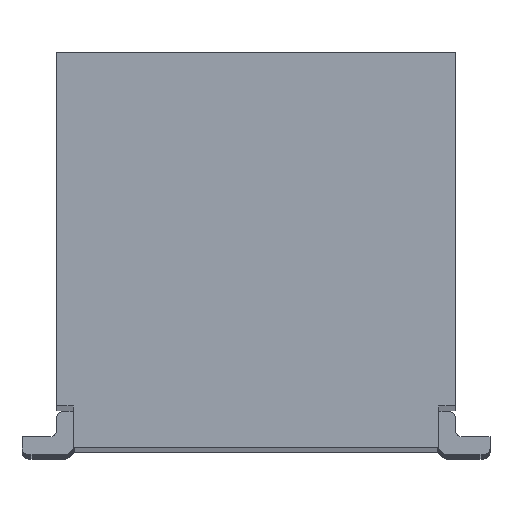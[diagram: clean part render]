
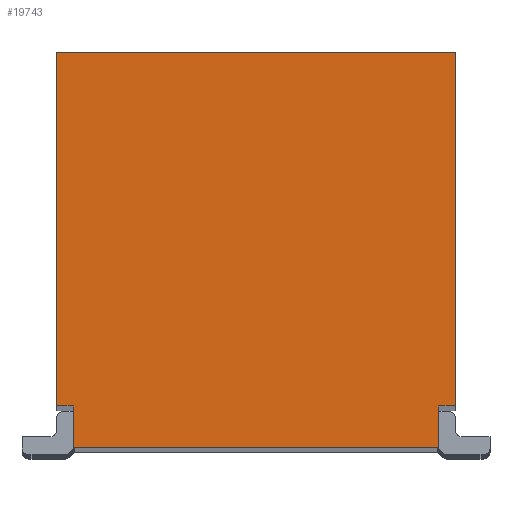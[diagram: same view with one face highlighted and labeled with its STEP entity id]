
A CAD part, top view. The second image highlights one B-rep face of the part: STEP entity #19743.
In plain terms, the highlighted planar face has unit normal (0, 0, 1).
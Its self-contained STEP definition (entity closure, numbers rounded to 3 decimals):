
#1265 = VERTEX_POINT ( 'NONE', #16897 ) ;
#2711 = LINE ( 'NONE', #21349, #26426 ) ;
#2768 = CARTESIAN_POINT ( 'NONE',  ( -1.32, -2.655, 21.185 ) ) ;
#3430 = ORIENTED_EDGE ( 'NONE', *, *, #34107, .F. ) ;
#4192 = DIRECTION ( 'NONE',  ( 0., 1., 0. ) ) ;
#4305 = EDGE_CURVE ( 'NONE', #40281, #5247, #9055, .T. ) ;
#4357 = ORIENTED_EDGE ( 'NONE', *, *, #4305, .T. ) ;
#5247 = VERTEX_POINT ( 'NONE', #30533 ) ;
#6258 = ORIENTED_EDGE ( 'NONE', *, *, #8884, .T. ) ;
#7359 = ORIENTED_EDGE ( 'NONE', *, *, #10482, .T. ) ;
#8865 = VECTOR ( 'NONE', #58038, 1000. ) ;
#8884 = EDGE_CURVE ( 'NONE', #1265, #17987, #52969, .T. ) ;
#9055 = LINE ( 'NONE', #37959, #58446 ) ;
#9323 = ORIENTED_EDGE ( 'NONE', *, *, #40875, .T. ) ;
#10171 = VERTEX_POINT ( 'NONE', #44004 ) ;
#10482 = EDGE_CURVE ( 'NONE', #17987, #54867, #42732, .T. ) ;
#16897 = CARTESIAN_POINT ( 'NONE',  ( -1.32, -2.95, 21.185 ) ) ;
#17987 = VERTEX_POINT ( 'NONE', #54463 ) ;
#17996 = PLANE ( 'NONE',  #60452 ) ;
#18812 = ORIENTED_EDGE ( 'NONE', *, *, #42747, .T. ) ;
#18916 = FACE_OUTER_BOUND ( 'NONE', #41286, .T. ) ;
#19382 = DIRECTION ( 'NONE',  ( 1., 0., 0. ) ) ;
#19743 = ADVANCED_FACE ( 'NONE', ( #18916 ), #17996, .T. ) ;
#20080 = VECTOR ( 'NONE', #37853, 1000. ) ;
#20370 = ORIENTED_EDGE ( 'NONE', *, *, #55205, .T. ) ;
#21349 = CARTESIAN_POINT ( 'NONE',  ( 1.35, -2.65, 21.185 ) ) ;
#22597 = CARTESIAN_POINT ( 'NONE',  ( -0.127, -2.95, 21.185 ) ) ;
#23689 = EDGE_CURVE ( 'NONE', #10171, #33333, #53991, .T. ) ;
#24380 = CARTESIAN_POINT ( 'NONE',  ( -1.44, -2.65, 21.185 ) ) ;
#25711 = DIRECTION ( 'NONE',  ( 1., 0., 0. ) ) ;
#25774 = LINE ( 'NONE', #2768, #53652 ) ;
#26426 = VECTOR ( 'NONE', #25711, 1000. ) ;
#30533 = CARTESIAN_POINT ( 'NONE',  ( -1.32, -2.65, 21.185 ) ) ;
#31131 = VECTOR ( 'NONE', #4192, 1000. ) ;
#33333 = VERTEX_POINT ( 'NONE', #57283 ) ;
#34107 = EDGE_CURVE ( 'NONE', #40281, #10171, #37543, .T. ) ;
#36055 = ORIENTED_EDGE ( 'NONE', *, *, #23689, .F. ) ;
#36697 = CARTESIAN_POINT ( 'NONE',  ( 1.44, -21.25, 21.185 ) ) ;
#36959 = DIRECTION ( 'NONE',  ( 0., -1., 0. ) ) ;
#37135 = CARTESIAN_POINT ( 'NONE',  ( 1.32, -2.65, 21.185 ) ) ;
#37543 = LINE ( 'NONE', #61494, #20080 ) ;
#37572 = DIRECTION ( 'NONE',  ( 0., 0., 1. ) ) ;
#37853 = DIRECTION ( 'NONE',  ( 0., 1., 0. ) ) ;
#37959 = CARTESIAN_POINT ( 'NONE',  ( 1.35, -2.65, 21.185 ) ) ;
#38261 = DIRECTION ( 'NONE',  ( 1., 0., 0. ) ) ;
#40281 = VERTEX_POINT ( 'NONE', #24380 ) ;
#40875 = EDGE_CURVE ( 'NONE', #47941, #33333, #41674, .T. ) ;
#41286 = EDGE_LOOP ( 'NONE', ( #20370, #6258, #7359, #18812, #9323, #36055, #3430, #4357 ) ) ;
#41674 = LINE ( 'NONE', #36697, #51194 ) ;
#42732 = LINE ( 'NONE', #37135, #31131 ) ;
#42747 = EDGE_CURVE ( 'NONE', #54867, #47941, #2711, .T. ) ;
#44004 = CARTESIAN_POINT ( 'NONE',  ( -1.44, -0.1, 21.185 ) ) ;
#44040 = CARTESIAN_POINT ( 'NONE',  ( -1.47, -0.1, 21.185 ) ) ;
#44446 = DIRECTION ( 'NONE',  ( 0., -1., 0. ) ) ;
#46650 = DIRECTION ( 'NONE',  ( 0., 1., 0. ) ) ;
#47941 = VERTEX_POINT ( 'NONE', #52016 ) ;
#49498 = CARTESIAN_POINT ( 'NONE',  ( 1.32, -2.65, 21.185 ) ) ;
#50827 = VECTOR ( 'NONE', #19382, 1000. ) ;
#51194 = VECTOR ( 'NONE', #46650, 1000. ) ;
#52016 = CARTESIAN_POINT ( 'NONE',  ( 1.44, -2.65, 21.185 ) ) ;
#52969 = LINE ( 'NONE', #22597, #50827 ) ;
#53652 = VECTOR ( 'NONE', #44446, 1000. ) ;
#53991 = LINE ( 'NONE', #44040, #8865 ) ;
#54463 = CARTESIAN_POINT ( 'NONE',  ( 1.32, -2.95, 21.185 ) ) ;
#54867 = VERTEX_POINT ( 'NONE', #49498 ) ;
#55205 = EDGE_CURVE ( 'NONE', #5247, #1265, #25774, .T. ) ;
#57156 = CARTESIAN_POINT ( 'NONE',  ( 0., -1.1, 21.185 ) ) ;
#57283 = CARTESIAN_POINT ( 'NONE',  ( 1.44, -0.1, 21.185 ) ) ;
#58038 = DIRECTION ( 'NONE',  ( 1., 0., 0. ) ) ;
#58446 = VECTOR ( 'NONE', #38261, 1000. ) ;
#60452 = AXIS2_PLACEMENT_3D ( 'NONE', #57156, #37572, #36959 ) ;
#61494 = CARTESIAN_POINT ( 'NONE',  ( -1.44, -21.25, 21.185 ) ) ;
